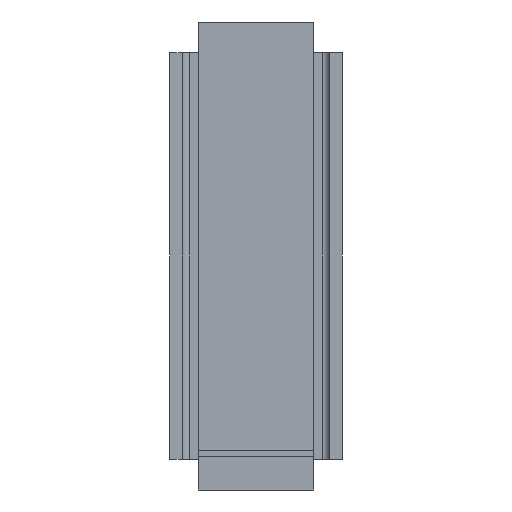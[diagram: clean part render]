
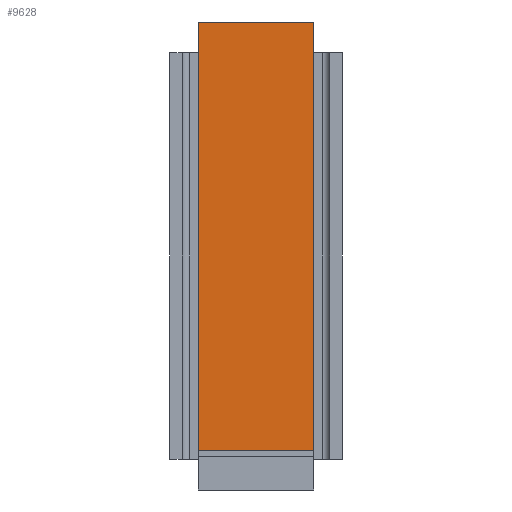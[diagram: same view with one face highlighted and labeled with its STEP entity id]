
A CAD part, left-side view. The second image highlights one B-rep face of the part: STEP entity #9628.
In plain terms, the highlighted planar face has unit normal (-1, 0, 0).
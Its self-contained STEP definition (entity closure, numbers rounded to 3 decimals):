
#674 = CARTESIAN_POINT ( 'NONE',  ( -8., -2.35, 9.5 ) ) ;
#1011 = VECTOR ( 'NONE', #7393, 1000. ) ;
#1019 = PLANE ( 'NONE',  #10474 ) ;
#2098 = DIRECTION ( 'NONE',  ( 0., -1., 0. ) ) ;
#4052 = CARTESIAN_POINT ( 'NONE',  ( -8., 2.35, 9.5 ) ) ;
#4720 = LINE ( 'NONE', #9304, #10878 ) ;
#6611 = LINE ( 'NONE', #4052, #15228 ) ;
#6671 = LINE ( 'NONE', #674, #11621 ) ;
#7393 = DIRECTION ( 'NONE',  ( 0., 1., 0. ) ) ;
#8883 = CARTESIAN_POINT ( 'NONE',  ( -8., 2.35, -7.9 ) ) ;
#9304 = CARTESIAN_POINT ( 'NONE',  ( -8., 54997.65, -7.9 ) ) ;
#9628 = ADVANCED_FACE ( 'NONE', ( #10711 ), #1019, .F. ) ;
#9788 = EDGE_CURVE ( 'NONE', #21234, #22294, #4720, .T. ) ;
#10474 = AXIS2_PLACEMENT_3D ( 'NONE', #14772, #12872, #14895 ) ;
#10711 = FACE_OUTER_BOUND ( 'NONE', #20088, .T. ) ;
#10878 = VECTOR ( 'NONE', #2098, 1000. ) ;
#11621 = VECTOR ( 'NONE', #16220, 1000. ) ;
#12066 = ORIENTED_EDGE ( 'NONE', *, *, #14766, .T. ) ;
#12195 = VERTEX_POINT ( 'NONE', #14652 ) ;
#12872 = DIRECTION ( 'NONE',  ( 1., 0., 0. ) ) ;
#14652 = CARTESIAN_POINT ( 'NONE',  ( -8., 2.35, 9.5 ) ) ;
#14766 = EDGE_CURVE ( 'NONE', #24260, #12195, #17429, .T. ) ;
#14772 = CARTESIAN_POINT ( 'NONE',  ( -8., -2.35, 9.5 ) ) ;
#14895 = DIRECTION ( 'NONE',  ( 0., 1., 0. ) ) ;
#15228 = VECTOR ( 'NONE', #19589, 1000. ) ;
#15567 = CARTESIAN_POINT ( 'NONE',  ( -8., -2.35, 9.5 ) ) ;
#16220 = DIRECTION ( 'NONE',  ( 0., 0., -1. ) ) ;
#16650 = EDGE_CURVE ( 'NONE', #12195, #21234, #6611, .T. ) ;
#16883 = CARTESIAN_POINT ( 'NONE',  ( -8., -2.35, -7.9 ) ) ;
#17429 = LINE ( 'NONE', #25206, #1011 ) ;
#17683 = ORIENTED_EDGE ( 'NONE', *, *, #25183, .F. ) ;
#19589 = DIRECTION ( 'NONE',  ( 0., 0., -1. ) ) ;
#20088 = EDGE_LOOP ( 'NONE', ( #24390, #24758, #17683, #12066 ) ) ;
#21234 = VERTEX_POINT ( 'NONE', #8883 ) ;
#22294 = VERTEX_POINT ( 'NONE', #16883 ) ;
#24260 = VERTEX_POINT ( 'NONE', #15567 ) ;
#24390 = ORIENTED_EDGE ( 'NONE', *, *, #16650, .T. ) ;
#24758 = ORIENTED_EDGE ( 'NONE', *, *, #9788, .T. ) ;
#25183 = EDGE_CURVE ( 'NONE', #24260, #22294, #6671, .T. ) ;
#25206 = CARTESIAN_POINT ( 'NONE',  ( -8., -2.35, 9.5 ) ) ;
